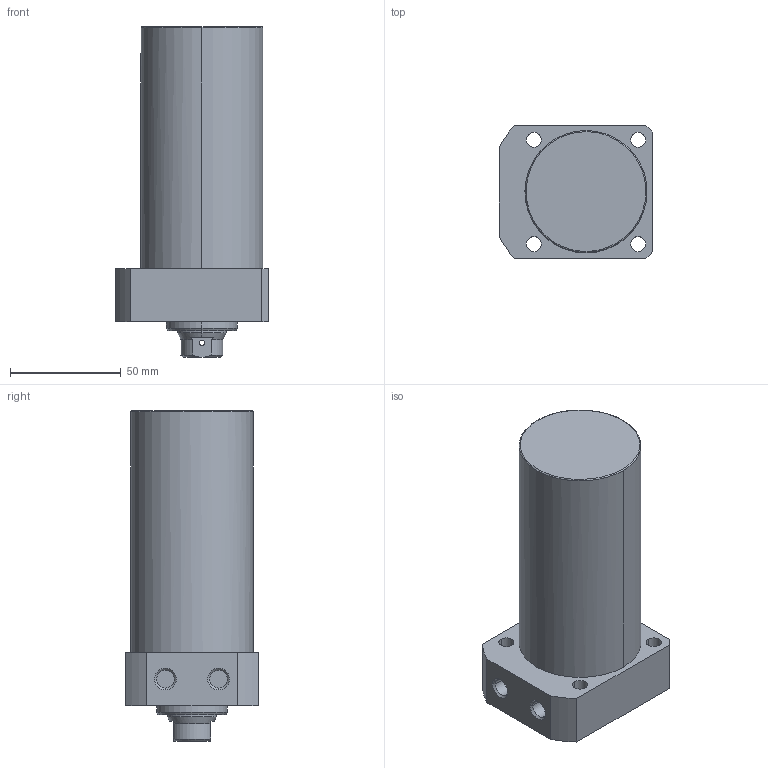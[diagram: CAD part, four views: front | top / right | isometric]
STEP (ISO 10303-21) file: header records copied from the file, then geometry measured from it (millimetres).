
FILE_DESCRIPTION((' '),'2;1');
FILE_NAME( 'TLLR-055CB-080.STEP.stp', '2025-10-24T16:34:44', (' '), ('--- Datakit www.datakit.com---'), ' Datakit CrossCadWare V2024.1 Dec 21 2023', 'Mastercam 2025', ' ');
FILE_SCHEMA(('AUTOMOTIVE_DESIGN { 1 0 10303 214 1 1 1 1 }'));
Length unit declared in the file: millimetre
Products named in the file (1): TLLR-055CB-080
Bounding box: 69 x 60 x 149 mm (x, y, z)
Volume: 356550.7 mm3; surface area: 37169.3 mm2
Topology: 1 solids, 1 shells, 67 faces, 197 edges, 136 vertices
Faces by surface type: cylinder 32, plane 19, cone 14, torus 2
Entity records: 3058 total; most frequent: CARTESIAN_POINT 1139, DIRECTION 426, ORIENTED_EDGE 390, EDGE_CURVE 195, AXIS2_PLACEMENT_3D 179, VERTEX_POINT 136, CIRCLE 111, EDGE_LOOP 85
